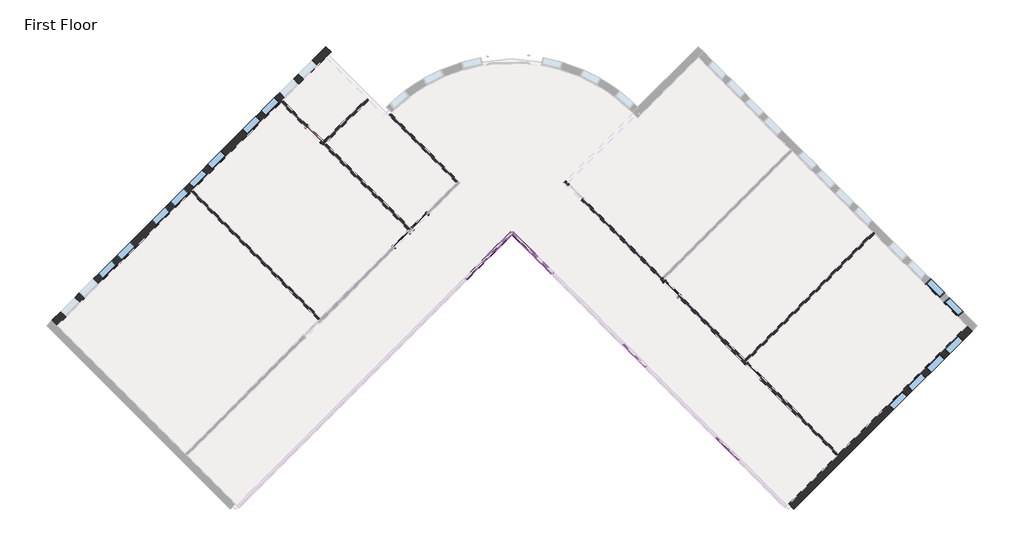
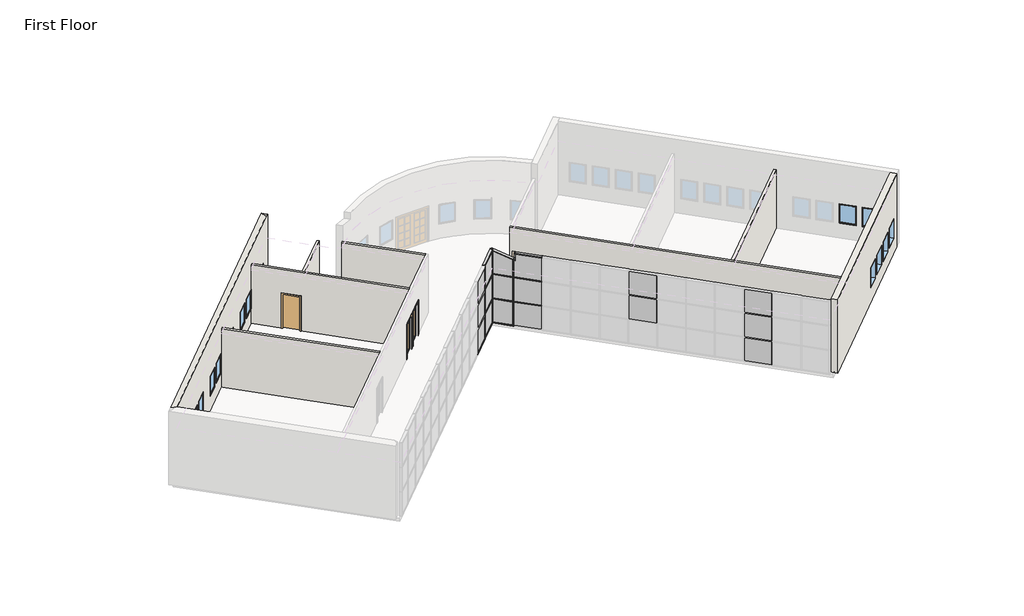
# One storey, part 3 of 4: 26 members, 17 plates, 14 windows, 8 walls, 5 doors.
"""IFC4 building model written with IfcOpenShell, lengths in millimetres."""

from ifc_helpers import new_model, si_unit, point, frame_2d, origin, origin_with_axes, place, context, project, spatial, polyline, circle_curve, trimmed, segment, composite_curve, outline, extrude, faceted_brep, transform, mapped, element, save
from components import m_single_flush_0915_x_2134mm_83e8e835, m_single_glass_1_0915_x_2134mm_fb3287b7, m_single_glass_1_0915_x_2134mm_4e5e1233, rectangular_mullion_50_x_150mm_339d4f99, rectangular_mullion_50_x_150mm_40297ad3, rectangular_mullion_50_x_150mm_ccbf48d0, rectangular_mullion_50_x_150mm_f494fff1, rectangular_mullion_50_x_150mm_97ff1a0c, rectangular_mullion_50_x_150mm_5da8f88f, rectangular_mullion_50_x_150mm_a1635f5b, rectangular_mullion_50_x_150mm_6261b450, rectangular_mullion_50_x_150mm_c13bad7a, rectangular_mullion_50_x_150mm_4d330a12, rectangular_mullion_50_x_150mm_3c20ccb2, rectangular_mullion_50_x_150mm_93975400, rectangular_mullion_50_x_150mm_0940c479, rectangular_mullion_50_x_150mm_75e70a66, rectangular_mullion_50_x_150mm_96b90bf1, rectangular_mullion_50_x_150mm_4247da93, system_panel_glazed_62d989f2, system_panel_glazed_a417ca2b, system_panel_glazed_b8bd361a, system_panel_glazed_7c4ff273, system_panel_glazed_0df73d5a, system_panel_glazed_71216330, system_panel_solid_0812dcd2, system_panel_solid_7096e89f, system_panel_solid_a570f427, system_panel_solid_49db0aee, system_panel_solid_a9fdfe61, m_fixed_0915_x_1220mm_bde29121, m_fixed_0915_x_1220mm_2a2509e7

model = new_model("IFC4")

# Units and contexts
model_context = context("Model", 3, world=origin())
ifc_project = project(units=[si_unit("LENGTHUNIT", "METRE", prefix="MILLI")], contexts=[model_context])

# Site, building, storey
site = spatial("IfcSite", under=ifc_project)
building = spatial("IfcBuilding", under=site)
storey = spatial("IfcBuildingStorey", under=building, Name="First Floor", Elevation=0.0)

# Doors
placement = place(None, origin())
m_single_flush_0915_x_2134mm_shape = m_single_flush_0915_x_2134mm_83e8e835(model_context)
element("IfcDoor", 1, ObjectType="M_Single-Flush : 0915 x 2134mm", at=placement, inside=storey, context=model_context, shape_type="MappedRepresentation", body=[
    mapped(m_single_flush_0915_x_2134mm_shape, transform((-10762.6979297, 6563.7995594, 0.0), x_axis=(0.7071067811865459, -0.7071067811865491, 0.0), y_axis=(0.7071067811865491, 0.7071067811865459, 0.0), z_axis=(0.0, 0.0, 1.0))),
])
m_single_glass_1_0915_x_2134mm_shape = m_single_glass_1_0915_x_2134mm_fb3287b7(model_context)
element("IfcDoor", 2, ObjectType="M_Single-Glass 1 : 0915 x 2134mm", at=placement, inside=storey, context=model_context, shape_type="MappedRepresentation", body=[
    mapped(m_single_glass_1_0915_x_2134mm_shape, transform((-6731.4821701, 1669.9135268, 0.0), x_axis=(0.7071067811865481, 0.7071067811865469, 0.0), y_axis=(-0.7071067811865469, 0.7071067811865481, 0.0), z_axis=(0.0, 0.0, 1.0))),
])
m_single_glass_1_0915_x_2134mm_2_shape = m_single_glass_1_0915_x_2134mm_4e5e1233(model_context)
element("IfcDoor", 3, ObjectType="M_Single-Glass 1 : 0915 x 2134mm", at=placement, inside=storey, context=model_context, shape_type="MappedRepresentation", body=[
    mapped(m_single_glass_1_0915_x_2134mm_2_shape, transform((-5868.8118971, 2532.5837999, 0.0), x_axis=(-0.7071067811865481, -0.7071067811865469, 0.0), y_axis=(0.7071067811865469, -0.7071067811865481, 0.0), z_axis=(0.0, 0.0, 1.0))),
])
element("IfcDoor", 4, ObjectType="M_Single-Glass 1 : 0915 x 2134mm", at=placement, inside=storey, context=model_context, shape_type="MappedRepresentation", body=[
    mapped(m_single_glass_1_0915_x_2134mm_2_shape, transform((5790.8485946, -591.9442895, 0.0), x_axis=(-0.7071067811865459, 0.7071067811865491, 0.0), y_axis=(-0.7071067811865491, -0.7071067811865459, 0.0), z_axis=(0.0, 0.0, 1.0))),
])
element("IfcDoor", 5, ObjectType="M_Single-Glass 1 : 0915 x 2134mm", at=placement, inside=storey, context=model_context, shape_type="MappedRepresentation", body=[
    mapped(m_single_glass_1_0915_x_2134mm_2_shape, transform((9606.3967859, -4407.4924808, 0.0), x_axis=(-0.7071067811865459, 0.7071067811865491, 0.0), y_axis=(-0.7071067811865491, -0.7071067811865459, 0.0), z_axis=(0.0, 0.0, 1.0))),
])

# Members
rectangular_mullion_50_x_150mm_shape = rectangular_mullion_50_x_150mm_339d4f99(model_context)
element("IfcMember", 6, ObjectType="Rectangular Mullion : 50 x 150mm", at=placement, inside=storey, context=model_context, shape_type="MappedRepresentation", body=[
    mapped(rectangular_mullion_50_x_150mm_shape, transform((-1636.601035, 1959.296977, 0.0), x_axis=(0.0, 0.0, -1.0), y_axis=(-0.7071067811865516, 0.7071067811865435, 0.0), z_axis=(0.7071067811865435, 0.7071067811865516, 0.0))),
])
rectangular_mullion_50_x_150mm_2_shape = rectangular_mullion_50_x_150mm_40297ad3(model_context)
element("IfcMember", 7, ObjectType="Rectangular Mullion : 50 x 150mm", at=placement, inside=storey, context=model_context, shape_type="MappedRepresentation", body=[
    mapped(rectangular_mullion_50_x_150mm_2_shape, transform((-2678.8764304, 917.0215815, 0.0), x_axis=(-0.7071067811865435, -0.7071067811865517, 0.0), y_axis=(-0.7071067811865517, 0.7071067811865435, 0.0), z_axis=(0.0, 0.0, -1.0))),
])
element("IfcMember", 8, ObjectType="Rectangular Mullion : 50 x 150mm", at=placement, inside=storey, context=model_context, shape_type="MappedRepresentation", body=[
    mapped(rectangular_mullion_50_x_150mm_2_shape, transform((-771.1023348, 1164.508955, 0.0), x_axis=(-0.7071067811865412, 0.7071067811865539, 0.0), y_axis=(0.7071067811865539, 0.7071067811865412, 0.0), z_axis=(0.0, 0.0, -1.0))),
])
rectangular_mullion_50_x_150mm_3_shape = rectangular_mullion_50_x_150mm_ccbf48d0(model_context)
element("IfcMember", 9, ObjectType="Rectangular Mullion : 50 x 150mm", at=placement, inside=storey, context=model_context, shape_type="MappedRepresentation", body=[
    mapped(rectangular_mullion_50_x_150mm_3_shape, transform((-2661.1987609, 934.6992511, 1524.0), x_axis=(0.0, 0.0, 1.0), y_axis=(-0.7071067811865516, 0.7071067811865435, 0.0), z_axis=(-0.7071067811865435, -0.7071067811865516, 0.0))),
])
element("IfcMember", 10, ObjectType="Rectangular Mullion : 50 x 150mm", at=placement, inside=storey, context=model_context, shape_type="MappedRepresentation", body=[
    mapped(rectangular_mullion_50_x_150mm_3_shape, transform((-2661.1987609, 934.6992511, 3048.0), x_axis=(0.0, 0.0, 1.0), y_axis=(-0.7071067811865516, 0.7071067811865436, 0.0), z_axis=(-0.7071067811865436, -0.7071067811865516, 0.0))),
])
rectangular_mullion_50_x_150mm_4_shape = rectangular_mullion_50_x_150mm_f494fff1(model_context)
element("IfcMember", 11, ObjectType="Rectangular Mullion : 50 x 150mm", at=placement, inside=storey, context=model_context, shape_type="MappedRepresentation", body=[
    mapped(rectangular_mullion_50_x_150mm_4_shape, transform((-753.4246653, 1146.8312854, 1524.0), x_axis=(0.0, 0.0, 1.0), y_axis=(0.7071067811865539, 0.7071067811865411, 0.0), z_axis=(-0.7071067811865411, 0.7071067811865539, 0.0))),
])
element("IfcMember", 12, ObjectType="Rectangular Mullion : 50 x 150mm", at=placement, inside=storey, context=model_context, shape_type="MappedRepresentation", body=[
    mapped(rectangular_mullion_50_x_150mm_4_shape, transform((-753.4246653, 1146.8312854, 3048.0), x_axis=(0.0, 0.0, 1.0), y_axis=(0.7071067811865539, 0.7071067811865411, 0.0), z_axis=(-0.7071067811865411, 0.7071067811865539, 0.0))),
])
rectangular_mullion_50_x_150mm_5_shape = rectangular_mullion_50_x_150mm_97ff1a0c(model_context)
element("IfcMember", 13, ObjectType="Rectangular Mullion : 50 x 150mm", at=placement, inside=storey, context=model_context, shape_type="MappedRepresentation", body=[
    mapped(rectangular_mullion_50_x_150mm_5_shape, transform((-1565.8903569, 1959.296977, 1524.0), x_axis=(0.0, 0.0, 1.0), y_axis=(0.707106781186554, 0.7071067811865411, 0.0), z_axis=(-0.7071067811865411, 0.707106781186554, 0.0))),
])
element("IfcMember", 14, ObjectType="Rectangular Mullion : 50 x 150mm", at=placement, inside=storey, context=model_context, shape_type="MappedRepresentation", body=[
    mapped(rectangular_mullion_50_x_150mm_5_shape, transform((-1565.8903569, 1959.296977, 3048.0), x_axis=(0.0, 0.0, 1.0), y_axis=(0.707106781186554, 0.7071067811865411, 0.0), z_axis=(-0.7071067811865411, 0.707106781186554, 0.0))),
])
rectangular_mullion_50_x_150mm_6_shape = rectangular_mullion_50_x_150mm_5da8f88f(model_context)
element("IfcMember", 15, ObjectType="Rectangular Mullion : 50 x 150mm", at=placement, inside=storey, context=model_context, shape_type="MappedRepresentation", body=[
    mapped(rectangular_mullion_50_x_150mm_6_shape, transform((-2696.5541, 899.343912, 0.0), x_axis=(0.0, 0.0, -1.0), y_axis=(-0.7071067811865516, 0.7071067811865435, 0.0), z_axis=(0.7071067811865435, 0.7071067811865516, 0.0))),
])
rectangular_mullion_50_x_150mm_7_shape = rectangular_mullion_50_x_150mm_a1635f5b(model_context)
element("IfcMember", 16, ObjectType="Rectangular Mullion : 50 x 150mm", at=placement, inside=storey, context=model_context, shape_type="MappedRepresentation", body=[
    mapped(rectangular_mullion_50_x_150mm_7_shape, transform((-788.7800043, 1182.1866245, 0.0), x_axis=(0.0, 0.0, -1.0), y_axis=(0.707106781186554, 0.707106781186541, 0.0), z_axis=(0.707106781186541, -0.707106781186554, 0.0))),
])
element("IfcMember", 17, ObjectType="Rectangular Mullion : 50 x 150mm", at=placement, inside=storey, context=model_context, shape_type="MappedRepresentation", body=[
    mapped(rectangular_mullion_50_x_150mm_shape, transform((-2661.1987609, 934.6992511, 4571.7250795), x_axis=(0.0, 0.0, 1.0), y_axis=(-0.7071067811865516, 0.7071067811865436, 0.0), z_axis=(-0.7071067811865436, -0.7071067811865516, 0.0))),
])
element("IfcMember", 18, ObjectType="Rectangular Mullion : 50 x 150mm", at=placement, inside=storey, context=model_context, shape_type="MappedRepresentation", body=[
    mapped(rectangular_mullion_50_x_150mm_2_shape, transform((-2678.8764304, 917.0215815, 1524.0), x_axis=(-0.7071067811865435, -0.7071067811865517, 0.0), y_axis=(-0.7071067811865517, 0.7071067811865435, 0.0), z_axis=(0.0, 0.0, -1.0))),
])
element("IfcMember", 19, ObjectType="Rectangular Mullion : 50 x 150mm", at=placement, inside=storey, context=model_context, shape_type="MappedRepresentation", body=[
    mapped(rectangular_mullion_50_x_150mm_2_shape, transform((-771.1023348, 1164.508955, 1524.0), x_axis=(-0.7071067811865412, 0.7071067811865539, 0.0), y_axis=(0.7071067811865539, 0.7071067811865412, 0.0), z_axis=(0.0, 0.0, -1.0))),
])
rectangular_mullion_50_x_150mm_8_shape = rectangular_mullion_50_x_150mm_6261b450(model_context)
element("IfcMember", 20, ObjectType="Rectangular Mullion : 50 x 150mm", at=placement, inside=storey, context=model_context, shape_type="MappedRepresentation", body=[
    mapped(rectangular_mullion_50_x_150mm_8_shape, transform((-2678.8764304, 917.0215815, 3048.0), x_axis=(-0.7071067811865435, -0.7071067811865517, 0.0), y_axis=(-0.7071067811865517, 0.7071067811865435, 0.0), z_axis=(0.0, 0.0, -1.0))),
])
rectangular_mullion_50_x_150mm_9_shape = rectangular_mullion_50_x_150mm_c13bad7a(model_context)
element("IfcMember", 21, ObjectType="Rectangular Mullion : 50 x 150mm", at=placement, inside=storey, context=model_context, shape_type="MappedRepresentation", body=[
    mapped(rectangular_mullion_50_x_150mm_9_shape, transform((-1601.2456959, 1994.6523161, 4571.7250795), x_axis=(0.7071067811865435, 0.7071067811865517, 0.0), y_axis=(-0.7071067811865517, 0.7071067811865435, 0.0), z_axis=(0.0, 0.0, 1.0))),
])
rectangular_mullion_50_x_150mm_10_shape = rectangular_mullion_50_x_150mm_4d330a12(model_context)
element("IfcMember", 22, ObjectType="Rectangular Mullion : 50 x 150mm", at=placement, inside=storey, context=model_context, shape_type="MappedRepresentation", body=[
    mapped(rectangular_mullion_50_x_150mm_10_shape, transform((-1601.2456959, 1994.6523161, 0.0), x_axis=(-0.7071067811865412, 0.7071067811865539, 0.0), y_axis=(0.7071067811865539, 0.7071067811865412, 0.0), z_axis=(0.0, 0.0, -1.0))),
])
element("IfcMember", 23, ObjectType="Rectangular Mullion : 50 x 150mm", at=placement, inside=storey, context=model_context, shape_type="MappedRepresentation", body=[
    mapped(rectangular_mullion_50_x_150mm_10_shape, transform((-1601.2456959, 1994.6523161, 1524.0), x_axis=(-0.7071067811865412, 0.7071067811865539, 0.0), y_axis=(0.7071067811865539, 0.7071067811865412, 0.0), z_axis=(0.0, 0.0, -1.0))),
])
element("IfcMember", 24, ObjectType="Rectangular Mullion : 50 x 150mm", at=placement, inside=storey, context=model_context, shape_type="MappedRepresentation", body=[
    mapped(rectangular_mullion_50_x_150mm_10_shape, transform((-1601.2456959, 1994.6523161, 1524.0), x_axis=(0.7071067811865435, 0.7071067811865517, 0.0), y_axis=(-0.7071067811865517, 0.7071067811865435, 0.0), z_axis=(0.0, 0.0, 1.0))),
])
element("IfcMember", 25, ObjectType="Rectangular Mullion : 50 x 150mm", at=placement, inside=storey, context=model_context, shape_type="MappedRepresentation", body=[
    mapped(rectangular_mullion_50_x_150mm_10_shape, transform((-1601.2456959, 1994.6523161, 3048.0), x_axis=(0.7071067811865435, 0.7071067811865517, 0.0), y_axis=(-0.7071067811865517, 0.7071067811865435, 0.0), z_axis=(0.0, 0.0, 1.0))),
])
rectangular_mullion_50_x_150mm_11_shape = rectangular_mullion_50_x_150mm_3c20ccb2(model_context)
element("IfcMember", 26, ObjectType="Rectangular Mullion : 50 x 150mm", at=placement, inside=storey, context=model_context, shape_type="MappedRepresentation", body=[
    mapped(rectangular_mullion_50_x_150mm_11_shape, transform((-703.2200838, 1096.626704, 4572.0), x_axis=(0.0, 0.0, 1.0), y_axis=(0.7071067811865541, 0.7071067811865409, 0.0), z_axis=(-0.7071067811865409, 0.7071067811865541, 0.0))),
])
rectangular_mullion_50_x_150mm_12_shape = rectangular_mullion_50_x_150mm_93975400(model_context)
element("IfcMember", 27, ObjectType="Rectangular Mullion : 50 x 150mm", at=placement, inside=storey, context=model_context, shape_type="MappedRepresentation", body=[
    mapped(rectangular_mullion_50_x_150mm_12_shape, transform((-738.5754229, 1131.982043, 4165.1754932), x_axis=(-0.7071067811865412, 0.7071067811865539, 0.0), y_axis=(0.7071067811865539, 0.7071067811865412, 0.0), z_axis=(0.0, 0.0, -1.0))),
])
rectangular_mullion_50_x_150mm_13_shape = rectangular_mullion_50_x_150mm_0940c479(model_context)
element("IfcMember", 28, ObjectType="Rectangular Mullion : 50 x 150mm", at=placement, inside=storey, context=model_context, shape_type="MappedRepresentation", body=[
    mapped(rectangular_mullion_50_x_150mm_13_shape, transform((-1601.2456959, 1994.6523161, 4571.7250795), x_axis=(0.2235488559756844, -0.2235488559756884, 0.9487106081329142), y_axis=(0.707106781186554, 0.7071067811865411, 0.0), z_axis=(-0.6708397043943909, 0.6708397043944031, 0.3161458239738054))),
])
rectangular_mullion_50_x_150mm_14_shape = rectangular_mullion_50_x_150mm_75e70a66(model_context)
element("IfcMember", 29, ObjectType="Rectangular Mullion : 50 x 150mm", at=placement, inside=storey, context=model_context, shape_type="MappedRepresentation", body=[
    mapped(rectangular_mullion_50_x_150mm_14_shape, transform((-771.1023348, 1164.508955, 4180.504412), x_axis=(0.2235488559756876, -0.2235488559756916, 0.9487106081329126), y_axis=(0.7071067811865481, 0.7071067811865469, 0.0), z_axis=(-0.6708397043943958, 0.6708397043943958, 0.3161458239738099))),
])
rectangular_mullion_50_x_150mm_15_shape = rectangular_mullion_50_x_150mm_96b90bf1(model_context)
element("IfcMember", 30, ObjectType="Rectangular Mullion : 50 x 150mm", at=placement, inside=storey, context=model_context, shape_type="MappedRepresentation", body=[
    mapped(rectangular_mullion_50_x_150mm_15_shape, transform((-771.1023348, 1164.508955, 3048.0), x_axis=(-0.7071067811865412, 0.7071067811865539, 0.0), y_axis=(0.7071067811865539, 0.7071067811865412, 0.0), z_axis=(0.0, 0.0, -1.0))),
])
rectangular_mullion_50_x_150mm_16_shape = rectangular_mullion_50_x_150mm_4247da93(model_context)
element("IfcMember", 31, ObjectType="Rectangular Mullion : 50 x 150mm", at=placement, inside=storey, context=model_context, shape_type="MappedRepresentation", body=[
    mapped(rectangular_mullion_50_x_150mm_16_shape, transform((-1601.2456959, 1994.6523161, 3048.0), x_axis=(-0.7071067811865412, 0.7071067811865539, 0.0), y_axis=(0.7071067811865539, 0.7071067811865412, 0.0), z_axis=(0.0, 0.0, -1.0))),
])

# Plates
system_panel_glazed_shape = system_panel_glazed_62d989f2(model_context)
element("IfcPlate", 32, ObjectType="System Panel : Glazed", at=placement, inside=storey, context=model_context, shape_type="MappedRepresentation", body=[
    mapped(system_panel_glazed_shape, transform((-2148.8998979, 1446.998114, 50.0), x_axis=(-0.7071067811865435, -0.7071067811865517, 0.0), y_axis=(0.7071067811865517, -0.7071067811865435, 0.0), z_axis=(0.0, 0.0, 1.0))),
])
system_panel_glazed_2_shape = system_panel_glazed_a417ca2b(model_context)
element("IfcPlate", 33, ObjectType="System Panel : Glazed", at=placement, inside=storey, context=model_context, shape_type="MappedRepresentation", body=[
    mapped(system_panel_glazed_2_shape, transform((8388.7589087, -7995.3522885, 50.0), x_axis=(-0.7071067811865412, 0.7071067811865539, 0.0), y_axis=(-0.7071067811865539, -0.7071067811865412, 0.0), z_axis=(0.0, 0.0, 1.0))),
])
element("IfcPlate", 34, ObjectType="System Panel : Glazed", at=placement, inside=storey, context=model_context, shape_type="MappedRepresentation", body=[
    mapped(system_panel_glazed_2_shape, transform((-3217.6917977, 378.2062143, 50.0), x_axis=(-0.7071067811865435, -0.7071067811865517, 0.0), y_axis=(0.7071067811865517, -0.7071067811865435, 0.0), z_axis=(0.0, 0.0, 1.0))),
])
element("IfcPlate", 35, ObjectType="System Panel : Glazed", at=placement, inside=storey, context=model_context, shape_type="MappedRepresentation", body=[
    mapped(system_panel_glazed_2_shape, transform((-232.2869675, 625.6935877, 50.0), x_axis=(-0.7071067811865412, 0.7071067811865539, 0.0), y_axis=(-0.7071067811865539, -0.7071067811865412, 0.0), z_axis=(0.0, 0.0, 1.0))),
])
system_panel_glazed_3_shape = system_panel_glazed_b8bd361a(model_context)
element("IfcPlate", 36, ObjectType="System Panel : Glazed", at=placement, inside=storey, context=model_context, shape_type="MappedRepresentation", body=[
    mapped(system_panel_glazed_3_shape, transform((-2148.8998979, 1446.998114, 1549.0), x_axis=(-0.7071067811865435, -0.7071067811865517, 0.0), y_axis=(0.7071067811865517, -0.7071067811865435, 0.0), z_axis=(0.0, 0.0, 1.0))),
])
system_panel_glazed_4_shape = system_panel_glazed_7c4ff273(model_context)
element("IfcPlate", 37, ObjectType="System Panel : Glazed", at=placement, inside=storey, context=model_context, shape_type="MappedRepresentation", body=[
    mapped(system_panel_glazed_4_shape, transform((8388.7589087, -7995.3522885, 1549.0), x_axis=(-0.7071067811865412, 0.7071067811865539, 0.0), y_axis=(-0.7071067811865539, -0.7071067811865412, 0.0), z_axis=(0.0, 0.0, 1.0))),
])
element("IfcPlate", 38, ObjectType="System Panel : Glazed", at=placement, inside=storey, context=model_context, shape_type="MappedRepresentation", body=[
    mapped(system_panel_glazed_4_shape, transform((4078.2359706, -3684.8293504, 1549.0), x_axis=(-0.7071067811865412, 0.7071067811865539, 0.0), y_axis=(-0.7071067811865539, -0.7071067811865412, 0.0), z_axis=(0.0, 0.0, 1.0))),
])
element("IfcPlate", 39, ObjectType="System Panel : Glazed", at=placement, inside=storey, context=model_context, shape_type="MappedRepresentation", body=[
    mapped(system_panel_glazed_4_shape, transform((-3217.6917977, 378.2062143, 1549.0), x_axis=(-0.7071067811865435, -0.7071067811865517, 0.0), y_axis=(0.7071067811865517, -0.7071067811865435, 0.0), z_axis=(0.0, 0.0, 1.0))),
])
element("IfcPlate", 40, ObjectType="System Panel : Glazed", at=placement, inside=storey, context=model_context, shape_type="MappedRepresentation", body=[
    mapped(system_panel_glazed_4_shape, transform((-232.2869675, 625.6935877, 1549.0), x_axis=(-0.7071067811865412, 0.7071067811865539, 0.0), y_axis=(-0.7071067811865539, -0.7071067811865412, 0.0), z_axis=(0.0, 0.0, 1.0))),
])
system_panel_glazed_5_shape = system_panel_glazed_0df73d5a(model_context)
element("IfcPlate", 41, ObjectType="System Panel : Glazed", at=placement, inside=storey, context=model_context, shape_type="MappedRepresentation", body=[
    mapped(system_panel_glazed_5_shape, transform((-1177.3351806, 1570.7418008, 50.0), x_axis=(-0.7071067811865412, 0.7071067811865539, 0.0), y_axis=(-0.7071067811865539, -0.7071067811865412, 0.0), z_axis=(0.0, 0.0, 1.0))),
])
system_panel_glazed_6_shape = system_panel_glazed_71216330(model_context)
element("IfcPlate", 42, ObjectType="System Panel : Glazed", at=placement, inside=storey, context=model_context, shape_type="MappedRepresentation", body=[
    mapped(system_panel_glazed_6_shape, transform((-1177.3351806, 1570.7418008, 1549.0), x_axis=(-0.7071067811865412, 0.7071067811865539, 0.0), y_axis=(-0.7071067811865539, -0.7071067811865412, 0.0), z_axis=(0.0, 0.0, 1.0))),
])
system_panel_solid_shape = system_panel_solid_0812dcd2(model_context)
element("IfcPlate", 43, ObjectType="System Panel : Solid", at=placement, inside=storey, context=model_context, shape_type="MappedRepresentation", body=[
    mapped(system_panel_solid_shape, transform((-2148.8998979, 1446.998114, 3073.0), x_axis=(-0.7071067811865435, -0.7071067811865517, 0.0), y_axis=(0.7071067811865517, -0.7071067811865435, 0.0), z_axis=(0.0, 0.0, 1.0))),
])
system_panel_solid_2_shape = system_panel_solid_7096e89f(model_context)
element("IfcPlate", 44, ObjectType="System Panel : Solid", at=placement, inside=storey, context=model_context, shape_type="MappedRepresentation", body=[
    mapped(system_panel_solid_2_shape, transform((-3217.6917977, 378.2062143, 3073.0), x_axis=(-0.7071067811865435, -0.7071067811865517, 0.0), y_axis=(0.7071067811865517, -0.7071067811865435, 0.0), z_axis=(0.0, 0.0, 1.0))),
])
system_panel_solid_3_shape = system_panel_solid_a570f427(model_context)
element("IfcPlate", 45, ObjectType="System Panel : Solid", at=placement, inside=storey, context=model_context, shape_type="MappedRepresentation", body=[
    mapped(system_panel_solid_3_shape, transform((8388.7589087, -7995.3522885, 3073.0), x_axis=(-0.7071067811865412, 0.7071067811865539, 0.0), y_axis=(-0.7071067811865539, -0.7071067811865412, 0.0), z_axis=(0.0, 0.0, 1.0))),
])
element("IfcPlate", 46, ObjectType="System Panel : Solid", at=placement, inside=storey, context=model_context, shape_type="MappedRepresentation", body=[
    mapped(system_panel_solid_3_shape, transform((4078.2359706, -3684.8293504, 3073.0), x_axis=(-0.7071067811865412, 0.7071067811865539, 0.0), y_axis=(-0.7071067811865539, -0.7071067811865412, 0.0), z_axis=(0.0, 0.0, 1.0))),
])
system_panel_solid_4_shape = system_panel_solid_49db0aee(model_context)
element("IfcPlate", 47, ObjectType="System Panel : Solid", at=placement, inside=storey, context=model_context, shape_type="MappedRepresentation", body=[
    mapped(system_panel_solid_4_shape, transform((-232.2869675, 625.6935877, 3073.0), x_axis=(-0.7071067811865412, 0.7071067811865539, 0.0), y_axis=(-0.7071067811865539, -0.7071067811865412, 0.0), z_axis=(0.0, 0.0, 1.0))),
])
system_panel_solid_5_shape = system_panel_solid_a9fdfe61(model_context)
element("IfcPlate", 48, ObjectType="System Panel : Solid", at=placement, inside=storey, context=model_context, shape_type="MappedRepresentation", body=[
    mapped(system_panel_solid_5_shape, transform((-1177.3351806, 1570.7418008, 3073.0), x_axis=(-0.7071067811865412, 0.7071067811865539, 0.0), y_axis=(-0.7071067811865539, -0.7071067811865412, 0.0), z_axis=(0.0, 0.0, 1.0))),
])

# Walls
element("IfcWall", 49, ObjectType="Exterior - Brick on Mtl. Stud", at=placement, inside=storey, context=model_context, shape_type="Brep", body=[
    faceted_brep([(19456.3942478, -2315.870622, 0.0), (13534.5517321, -8237.7131378, 0.0), (13436.6174429, -8335.647427, 0.0), (11206.5794317, -10565.6854381, 0.0), (11206.5794317, -10565.6854381, 4572.0), (19456.3942478, -2315.870622, 4572.0), (16455.7866219, -5316.478248, 915.0), (16455.7866219, -5316.478248, 2135.0), (15808.7839171, -5963.4809528, 2135.0), (15808.7839171, -5963.4809528, 915.0), (17317.7497881, -4454.5150817, 915.0), (17317.7497881, -4454.5150817, 2135.0), (16670.7470833, -5101.5177865, 2135.0), (16670.7470833, -5101.5177865, 915.0), (18179.7129544, -3592.5519155, 915.0), (18179.7129544, -3592.5519155, 2135.0), (17532.7102496, -4239.5546203, 2135.0), (17532.7102496, -4239.5546203, 915.0), (19041.6761207, -2730.5887492, 915.0), (19041.6761207, -2730.5887492, 2135.0), (18394.6734159, -3377.591454, 2135.0), (18394.6734159, -3377.591454, 915.0), (19703.8816212, -2563.3579955, 0.0), (19703.8816212, -2563.3579955, 4572.0), (11454.0668051, -10813.1728116, 4572.0), (11454.0668051, -10813.1728116, 0.0), (16703.2739953, -5563.9656214, 915.0), (16056.2712905, -6210.9683262, 915.0), (16056.2712905, -6210.9683262, 2135.0), (16703.2739953, -5563.9656214, 2135.0), (17565.2371615, -4702.0024552, 915.0), (16918.2344568, -5349.0051599, 915.0), (16918.2344568, -5349.0051599, 2135.0), (17565.2371615, -4702.0024552, 2135.0), (18427.2003278, -3840.0392889, 915.0), (17780.197623, -4487.0419937, 915.0), (17780.197623, -4487.0419937, 2135.0), (18427.2003278, -3840.0392889, 2135.0), (19289.1634941, -2978.0761226, 915.0), (18642.1607893, -3625.0788274, 915.0), (18642.1607893, -3625.0788274, 2135.0), (19289.1634941, -2978.0761226, 2135.0)], [[[0, 1, 2, 3, 4, 5], [6, 7, 8, 9], [10, 11, 12, 13], [14, 15, 16, 17], [18, 19, 20, 21]], [[22, 23, 24, 25], [26, 27, 28, 29], [30, 31, 32, 33], [34, 35, 36, 37], [38, 39, 40, 41]], [[3, 2, 1, 0, 22, 25]], [[4, 3, 25, 24]], [[5, 4, 24, 23]], [[0, 5, 23, 22]], [[7, 6, 26, 29]], [[8, 7, 29, 28]], [[9, 8, 28, 27]], [[6, 9, 27, 26]], [[11, 10, 30, 33]], [[12, 11, 33, 32]], [[13, 12, 32, 31]], [[10, 13, 31, 30]], [[15, 14, 34, 37]], [[16, 15, 37, 36]], [[17, 16, 36, 35]], [[14, 17, 35, 34]], [[19, 18, 38, 41]], [[20, 19, 41, 40]], [[21, 20, 40, 39]], [[18, 21, 39, 38]]]),
])
element("IfcWall", 50, ObjectType="Exterior - Brick on Mtl. Stud", at=placement, inside=storey, context=model_context, shape_type="Brep", body=[
    faceted_brep([(-22658.8856396, -2315.870622, 0.0), (-16473.6458479, 3869.3691697, 0.0), (-16375.7115587, 3967.3034589, 0.0), (-12319.9238385, 8023.0911791, 0.0), (-12221.9895493, 8121.0254683, 0.0), (-10222.2915721, 10120.7234455, 0.0), (-10105.6189532, 10237.3960644, 0.0), (-9974.8041987, 10368.2108189, 0.0), (-9974.8041987, 10368.2108189, 4571.7250795), (-10222.2915721, 10120.7234455, 4688.3581575), (-22658.8856396, -2315.870622, 4688.3581575), (-21597.1648077, -1254.1497901, 915.0), (-22244.1675125, -1901.1524949, 915.0), (-22244.1675125, -1901.1524949, 2135.0), (-21597.1648077, -1254.1497901, 2135.0), (-20735.2016414, -392.1866238, 915.0), (-21382.2043462, -1039.1893286, 915.0), (-21382.2043462, -1039.1893286, 2135.0), (-20735.2016414, -392.1866238, 2135.0), (-19011.2753089, 1331.7397087, 915.0), (-19658.2780137, 684.7370039, 915.0), (-19658.2780137, 684.7370039, 2135.0), (-19011.2753089, 1331.7397087, 2135.0), (-19873.2384752, 469.7765424, 915.0), (-20520.2411799, -177.2261623, 915.0), (-20520.2411799, -177.2261623, 2135.0), (-19873.2384752, 469.7765424, 2135.0), (-13838.0820977, 6504.9329199, 915.0), (-13838.0820977, 6504.9329199, 2135.0), (-13191.0793929, 7151.9356247, 2135.0), (-13191.0793929, 7151.9356247, 915.0), (-12976.1189315, 7366.8960861, 915.0), (-12976.1189315, 7366.8960861, 2135.0), (-12329.1162267, 8013.8987909, 2135.0), (-12329.1162267, 8013.8987909, 915.0), (-12114.1557652, 8228.8592524, 915.0), (-12114.1557652, 8228.8592524, 2135.0), (-11467.1530604, 8875.8619572, 2135.0), (-11467.1530604, 8875.8619572, 915.0), (-11252.1925989, 9090.8224187, 915.0), (-11252.1925989, 9090.8224187, 2135.0), (-10605.1898941, 9737.8251235, 2135.0), (-10605.1898941, 9737.8251235, 915.0), (-14808.2326015, 5534.7824161, 915.0), (-15455.2353063, 4887.7797113, 915.0), (-15455.2353063, 4887.7797113, 2135.0), (-14808.2326015, 5534.7824161, 2135.0), (-15670.1957678, 4672.8192498, 915.0), (-16317.1984726, 4025.816545, 915.0), (-16317.1984726, 4025.816545, 2135.0), (-15670.1957678, 4672.8192498, 2135.0), (-16532.1589341, 3810.8560836, 915.0), (-17179.1616388, 3163.8533788, 915.0), (-17179.1616388, 3163.8533788, 2135.0), (-16532.1589341, 3810.8560836, 2135.0), (-17394.1221003, 2948.8929173, 915.0), (-18041.1248051, 2301.8902125, 915.0), (-18041.1248051, 2301.8902125, 2135.0), (-17394.1221003, 2948.8929173, 2135.0), (-22906.3730131, -2068.3832486, 0.0), (-22906.3730131, -2068.3832486, 4571.7250795), (-10222.2915721, 10615.6981923, 4571.7250795), (-10222.2915721, 10615.6981923, 0.0), (-10353.1063267, 10484.8834378, 0.0), (-21844.6521811, -1006.6624167, 915.0), (-21844.6521811, -1006.6624167, 2135.0), (-22491.6548859, -1653.6651215, 2135.0), (-22491.6548859, -1653.6651215, 915.0), (-20982.6890148, -144.6992504, 915.0), (-20982.6890148, -144.6992504, 2135.0), (-21629.6917196, -791.7019552, 2135.0), (-21629.6917196, -791.7019552, 915.0), (-19258.7626823, 1579.2270821, 915.0), (-19258.7626823, 1579.2270821, 2135.0), (-19905.7653871, 932.2243773, 2135.0), (-19905.7653871, 932.2243773, 915.0), (-20120.7258486, 717.2639159, 915.0), (-20120.7258486, 717.2639159, 2135.0), (-20767.7285534, 70.2612111, 2135.0), (-20767.7285534, 70.2612111, 915.0), (-14085.5694711, 6752.4202933, 915.0), (-13438.5667664, 7399.4229981, 915.0), (-13438.5667664, 7399.4229981, 2135.0), (-14085.5694711, 6752.4202933, 2135.0), (-13223.6063049, 7614.3834596, 915.0), (-12576.6036001, 8261.3861643, 915.0), (-12576.6036001, 8261.3861643, 2135.0), (-13223.6063049, 7614.3834596, 2135.0), (-12361.6431386, 8476.3466258, 915.0), (-11714.6404338, 9123.3493306, 915.0), (-11714.6404338, 9123.3493306, 2135.0), (-12361.6431386, 8476.3466258, 2135.0), (-11499.6799723, 9338.3097921, 915.0), (-10852.6772676, 9985.3124969, 915.0), (-10852.6772676, 9985.3124969, 2135.0), (-11499.6799723, 9338.3097921, 2135.0), (-15055.7199749, 5782.2697895, 915.0), (-15055.7199749, 5782.2697895, 2135.0), (-15702.7226797, 5135.2670847, 2135.0), (-15702.7226797, 5135.2670847, 915.0), (-15917.6831412, 4920.3066232, 915.0), (-15917.6831412, 4920.3066232, 2135.0), (-16564.685846, 4273.3039184, 2135.0), (-16564.685846, 4273.3039184, 915.0), (-16779.6463075, 4058.343457, 915.0), (-16779.6463075, 4058.343457, 2135.0), (-17426.6490123, 3411.3407522, 2135.0), (-17426.6490123, 3411.3407522, 915.0), (-17641.6094737, 3196.3802907, 915.0), (-17641.6094737, 3196.3802907, 2135.0), (-18288.6121785, 2549.3775859, 2135.0), (-18288.6121785, 2549.3775859, 915.0), (-22775.5582585, -2199.1980031, 0.0), (-10091.4768176, 10484.8834378, 0.0), (-10222.2915721, 10354.0686833, 0.0)], [[[0, 1, 2, 3, 4, 5, 6, 7, 8, 9, 10], [11, 12, 13, 14], [15, 16, 17, 18], [19, 20, 21, 22], [23, 24, 25, 26], [27, 28, 29, 30], [31, 32, 33, 34], [35, 36, 37, 38], [39, 40, 41, 42], [43, 44, 45, 46], [47, 48, 49, 50], [51, 52, 53, 54], [55, 56, 57, 58]], [[59, 60, 61, 62, 63], [64, 65, 66, 67], [68, 69, 70, 71], [72, 73, 74, 75], [76, 77, 78, 79], [80, 81, 82, 83], [84, 85, 86, 87], [88, 89, 90, 91], [92, 93, 94, 95], [96, 97, 98, 99], [100, 101, 102, 103], [104, 105, 106, 107], [108, 109, 110, 111]], [[0, 10, 60, 59, 112]], [[8, 7, 113, 62, 61]], [[65, 64, 11, 14]], [[66, 65, 14, 13]], [[67, 66, 13, 12]], [[64, 67, 12, 11]], [[69, 68, 15, 18]], [[70, 69, 18, 17]], [[71, 70, 17, 16]], [[68, 71, 16, 15]], [[73, 72, 19, 22]], [[74, 73, 22, 21]], [[75, 74, 21, 20]], [[72, 75, 20, 19]], [[77, 76, 23, 26]], [[78, 77, 26, 25]], [[79, 78, 25, 24]], [[76, 79, 24, 23]], [[28, 27, 80, 83]], [[29, 28, 83, 82]], [[30, 29, 82, 81]], [[27, 30, 81, 80]], [[32, 31, 84, 87]], [[33, 32, 87, 86]], [[34, 33, 86, 85]], [[31, 34, 85, 84]], [[36, 35, 88, 91]], [[37, 36, 91, 90]], [[38, 37, 90, 89]], [[35, 38, 89, 88]], [[40, 39, 92, 95]], [[41, 40, 95, 94]], [[42, 41, 94, 93]], [[39, 42, 93, 92]], [[97, 96, 43, 46]], [[98, 97, 46, 45]], [[99, 98, 45, 44]], [[96, 99, 44, 43]], [[101, 100, 47, 50]], [[102, 101, 50, 49]], [[103, 102, 49, 48]], [[100, 103, 48, 47]], [[105, 104, 51, 54]], [[106, 105, 54, 53]], [[107, 106, 53, 52]], [[104, 107, 52, 51]], [[109, 108, 55, 58]], [[110, 109, 58, 57]], [[111, 110, 57, 56]], [[108, 111, 56, 55]], [[10, 9, 61, 60]], [[9, 8, 61]], [[7, 6, 114, 113]], [[112, 59, 63, 114]], [[63, 62, 113, 114]], [[6, 5, 4, 3, 2, 1, 0, 112, 114]]]),
])
element("IfcWall", 51, ObjectType="Interior - 138mm Partition (1-hr)", at=placement, inside=storey, context=model_context, shape_type="SweptSolid", body=[
    extrude(outline(composite_curve([segment(polyline([(-7216.038281, 7523.5314273), (-4095.9184199, 4403.4115662), (-4193.8527091, 4305.477277), (-7312.3566207, 7423.9811885)]), True, "CONTINUOUS"), segment(trimmed(circle_curve(frame_2d((-1601.2456959, 1994.6523161)), 7880.0), [point((-7312.3566207, 7423.9811885))], [point((-7216.038281, 7523.5314273))], False, "CARTESIAN"), True, "CONTINUOUS")], self_intersect=False)), origin_with_axes(), (0.0, 0.0, 1.0), 3658.0),
])
element("IfcWall", 52, ObjectType="Interior - 138mm Partition (1-hr)", at=placement, inside=storey, context=model_context, shape_type="Brep", body=[
    faceted_brep([(-6300.1470336, 2199.1829525, 0.0), (-10233.4285039, 6132.4644229, 0.0), (-10331.3627931, 6230.3987121, 0.0), (-10390.2294327, 6289.2653516, 0.0), (-10390.2294327, 6289.2653516, 2134.0), (-11037.2321375, 6936.2680564, 2134.0), (-11037.2321375, 6936.2680564, 0.0), (-12221.9895493, 8121.0254683, 0.0), (-12221.9895493, 8121.0254683, 3658.0), (-10331.3627931, 6230.3987121, 3658.0), (-10233.4285039, 6132.4644229, 3658.0), (-6300.1470336, 2199.1829525, 3658.0), (-10488.1637219, 6191.3310624, 2134.0), (-10488.1637219, 6191.3310624, 0.0), (-6398.0813228, 2101.2486633, 0.0), (-6398.0813228, 2101.2486633, 3658.0), (-12319.9238385, 8023.0911791, 3658.0), (-12319.9238385, 8023.0911791, 0.0), (-11135.1664266, 6838.3337672, 0.0), (-11135.1664266, 6838.3337672, 2134.0)], [[[0, 1, 2, 3, 4, 5, 6, 7, 8, 9, 10, 11]], [[12, 13, 14, 15, 16, 17, 18, 19]], [[18, 17, 7, 6]], [[14, 13, 3, 2, 1, 0]], [[11, 10, 9, 8, 16, 15]], [[8, 7, 17, 16]], [[0, 11, 15, 14]], [[4, 3, 13, 12]], [[5, 4, 12, 19]], [[6, 5, 19, 18]]]),
])
element("IfcWall", 53, ObjectType="Interior - 138mm Partition (1-hr)", at=placement, inside=storey, context=model_context, shape_type="SweptSolid", body=[
    extrude(outline(polyline([(-8233.7305267, 8132.1624001), (-10233.4285039, 6132.4644229), (-10331.3627931, 6230.3987121), (-8331.6648159, 8230.0966893), (-8233.7305267, 8132.1624001)])), origin_with_axes(), (0.0, 0.0, 1.0), 3658.0),
])
element("IfcWall", 54, ObjectType="Interior - 138mm Partition (1-hr)", at=placement, inside=storey, context=model_context, shape_type="SweptSolid", body=[
    extrude(outline(polyline([(-16375.7115587, 3967.3034589), (-10453.869043, -1954.5390569), (-10551.8033322, -2052.473346), (-16473.6458479, 3869.3691697), (-16375.7115587, 3967.3034589)])), origin_with_axes(), (0.0, 0.0, 1.0), 3658.0),
])
element("IfcWall", 55, ObjectType="Interior - 138mm Partition (1-hr)", at=placement, inside=storey, context=model_context, shape_type="Brep", body=[
    faceted_brep([(9331.8625781, -4035.0239838, 2134.0), (9331.8625781, -4035.0239838, 0.0), (9272.9959386, -3976.1573443, 0.0), (9175.0616494, -3878.2230551, 0.0), (6163.3170916, -866.4784973, 0.0), (6163.3170916, -866.4784973, 2134.0), (5516.3143868, -219.4757925, 2134.0), (5516.3143868, -219.4757925, 0.0), (5457.4477473, -160.609153, 0.0), (5359.5134581, -62.6748638, 0.0), (1697.2306616, 3599.6079327, 0.0), (1697.2306616, 3599.6079327, 2134.0), (1050.2279568, 4246.6106375, 2134.0), (1050.2279568, 4246.6106375, 0.0), (991.3613173, 4305.477277, 0.0), (893.4270281, 4403.4115662, 0.0), (893.4270281, 4403.4115662, 3658.0), (991.3613173, 4305.477277, 3658.0), (5359.5134581, -62.6748638, 3658.0), (5457.4477473, -160.609153, 3658.0), (9175.0616494, -3878.2230551, 3658.0), (9272.9959386, -3976.1573443, 3658.0), (13534.5517321, -8237.7131378, 3658.0), (13534.5517321, -8237.7131378, 0.0), (9978.8652829, -4682.0266886, 0.0), (9978.8652829, -4682.0266886, 2134.0), (6065.3828024, -964.4127865, 0.0), (9233.9282889, -4132.958273, 0.0), (9233.9282889, -4132.958273, 2134.0), (9880.9309937, -4779.9609778, 2134.0), (9880.9309937, -4779.9609778, 0.0), (13436.6174429, -8335.647427, 0.0), (13436.6174429, -8335.647427, 3658.0), (795.4927389, 4305.477277, 3658.0), (795.4927389, 4305.477277, 0.0), (952.2936677, 4148.6763483, 0.0), (952.2936677, 4148.6763483, 2134.0), (1599.2963724, 3501.6736435, 2134.0), (1599.2963724, 3501.6736435, 0.0), (5418.3800976, -317.4100817, 0.0), (5418.3800976, -317.4100817, 2134.0), (6065.3828024, -964.4127865, 2134.0)], [[[0, 1, 2, 3, 4, 5, 6, 7, 8, 9, 10, 11, 12, 13, 14, 15, 16, 17, 18, 19, 20, 21, 22, 23, 24, 25]], [[26, 27, 28, 29, 30, 31, 32, 33, 34, 35, 36, 37, 38, 39, 40, 41]], [[15, 14, 13, 35, 34]], [[10, 9, 8, 7, 39, 38]], [[24, 23, 31, 30]], [[4, 3, 2, 1, 27, 26]], [[22, 21, 20, 19, 18, 17, 16, 33, 32]], [[23, 22, 32, 31]], [[16, 15, 34, 33]], [[36, 35, 13, 12]], [[37, 36, 12, 11]], [[38, 37, 11, 10]], [[40, 39, 7, 6]], [[41, 40, 6, 5]], [[26, 41, 5, 4]], [[28, 27, 1, 0]], [[29, 28, 0, 25]], [[30, 29, 25, 24]]]),
])
element("IfcWall", 56, ObjectType="Interior - 138mm Partition (1-hr)", at=placement, inside=storey, context=model_context, shape_type="SweptSolid", body=[
    extrude(outline(polyline([(15194.8384543, 1945.6851715), (9272.9959386, -3976.1573443), (9175.0616494, -3878.2230551), (15096.9041651, 2043.6194607), (15194.8384543, 1945.6851715)])), origin_with_axes(), (0.0, 0.0, 1.0), 3658.0),
])

# Windows
m_fixed_0915_x_1220mm_shape = m_fixed_0915_x_1220mm_bde29121(model_context)
element("IfcWindow", 57, ObjectType="M_Fixed : 0915 x 1220mm", at=placement, inside=storey, context=model_context, shape_type="MappedRepresentation", body=[
    mapped(m_fixed_0915_x_1220mm_shape, transform((18851.1108431, -1444.7150676, 0.0), x_axis=(-0.7071067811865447, 0.7071067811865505, 0.0), y_axis=(-0.7071067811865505, -0.7071067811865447, 0.0), z_axis=(0.0, 0.0, 1.0))),
])
element("IfcWindow", 58, ObjectType="M_Fixed : 0915 x 1220mm", at=placement, inside=storey, context=model_context, shape_type="MappedRepresentation", body=[
    mapped(m_fixed_0915_x_1220mm_shape, transform((17989.1476769, -582.7519014, 0.0), x_axis=(-0.7071067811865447, 0.7071067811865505, 0.0), y_axis=(-0.7071067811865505, -0.7071067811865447, 0.0), z_axis=(0.0, 0.0, 1.0))),
])
element("IfcWindow", 59, ObjectType="M_Fixed : 0915 x 1220mm", at=placement, inside=storey, context=model_context, shape_type="MappedRepresentation", body=[
    mapped(m_fixed_0915_x_1220mm_shape, transform((-20329.6759024, 279.2112649, 0.0), x_axis=(-0.7071067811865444, -0.7071067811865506, 0.0), y_axis=(0.7071067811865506, -0.7071067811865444, 0.0), z_axis=(0.0, 0.0, 1.0))),
])
element("IfcWindow", 60, ObjectType="M_Fixed : 0915 x 1220mm", at=placement, inside=storey, context=model_context, shape_type="MappedRepresentation", body=[
    mapped(m_fixed_0915_x_1220mm_shape, transform((-19467.7127362, 1141.1744312, 0.0), x_axis=(-0.7071067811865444, -0.7071067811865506, 0.0), y_axis=(0.7071067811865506, -0.7071067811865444, 0.0), z_axis=(0.0, 0.0, 1.0))),
])
element("IfcWindow", 61, ObjectType="M_Fixed : 0915 x 1220mm", at=placement, inside=storey, context=model_context, shape_type="MappedRepresentation", body=[
    mapped(m_fixed_0915_x_1220mm_shape, transform((-17850.5595276, 2758.3276398, 0.0), x_axis=(-0.7071067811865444, -0.7071067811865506, 0.0), y_axis=(0.7071067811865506, -0.7071067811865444, 0.0), z_axis=(0.0, 0.0, 1.0))),
])
element("IfcWindow", 62, ObjectType="M_Fixed : 0915 x 1220mm", at=placement, inside=storey, context=model_context, shape_type="MappedRepresentation", body=[
    mapped(m_fixed_0915_x_1220mm_shape, transform((-16988.5963613, 3620.290806, 0.0), x_axis=(-0.7071067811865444, -0.7071067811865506, 0.0), y_axis=(0.7071067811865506, -0.7071067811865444, 0.0), z_axis=(0.0, 0.0, 1.0))),
])
element("IfcWindow", 63, ObjectType="M_Fixed : 0915 x 1220mm", at=placement, inside=storey, context=model_context, shape_type="MappedRepresentation", body=[
    mapped(m_fixed_0915_x_1220mm_shape, transform((-16126.633195, 4482.2539723, 0.0), x_axis=(-0.7071067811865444, -0.7071067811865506, 0.0), y_axis=(0.7071067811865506, -0.7071067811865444, 0.0), z_axis=(0.0, 0.0, 1.0))),
])
element("IfcWindow", 64, ObjectType="M_Fixed : 0915 x 1220mm", at=placement, inside=storey, context=model_context, shape_type="MappedRepresentation", body=[
    mapped(m_fixed_0915_x_1220mm_shape, transform((-15264.6700288, 5344.2171386, 0.0), x_axis=(-0.7071067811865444, -0.7071067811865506, 0.0), y_axis=(0.7071067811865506, -0.7071067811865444, 0.0), z_axis=(0.0, 0.0, 1.0))),
])
m_fixed_0915_x_1220mm_2_shape = m_fixed_0915_x_1220mm_2a2509e7(model_context)
element("IfcWindow", 65, ObjectType="M_Fixed : 0915 x 1220mm", at=placement, inside=storey, context=model_context, shape_type="MappedRepresentation", body=[
    mapped(m_fixed_0915_x_1220mm_2_shape, transform((18851.1108431, -3187.0261765, 0.0), x_axis=(-0.7071067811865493, -0.7071067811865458, 0.0), y_axis=(0.7071067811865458, -0.7071067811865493, 0.0), z_axis=(0.0, 0.0, 1.0))),
])
element("IfcWindow", 66, ObjectType="M_Fixed : 0915 x 1220mm", at=placement, inside=storey, context=model_context, shape_type="MappedRepresentation", body=[
    mapped(m_fixed_0915_x_1220mm_2_shape, transform((17989.1476769, -4048.9893427, 0.0), x_axis=(-0.7071067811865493, -0.7071067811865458, 0.0), y_axis=(0.7071067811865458, -0.7071067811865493, 0.0), z_axis=(0.0, 0.0, 1.0))),
])
element("IfcWindow", 67, ObjectType="M_Fixed : 0915 x 1220mm", at=placement, inside=storey, context=model_context, shape_type="MappedRepresentation", body=[
    mapped(m_fixed_0915_x_1220mm_2_shape, transform((17127.1845106, -4910.952509, 0.0), x_axis=(-0.7071067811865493, -0.7071067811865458, 0.0), y_axis=(0.7071067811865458, -0.7071067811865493, 0.0), z_axis=(0.0, 0.0, 1.0))),
])
element("IfcWindow", 68, ObjectType="M_Fixed : 0915 x 1220mm", at=placement, inside=storey, context=model_context, shape_type="MappedRepresentation", body=[
    mapped(m_fixed_0915_x_1220mm_2_shape, transform((16265.2213443, -5772.9156753, 0.0), x_axis=(-0.7071067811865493, -0.7071067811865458, 0.0), y_axis=(0.7071067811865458, -0.7071067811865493, 0.0), z_axis=(0.0, 0.0, 1.0))),
])
element("IfcWindow", 69, ObjectType="M_Fixed : 0915 x 1220mm", at=placement, inside=storey, context=model_context, shape_type="MappedRepresentation", body=[
    mapped(m_fixed_0915_x_1220mm_2_shape, transform((-12785.5536539, 7823.3335134, 0.0), x_axis=(0.7071067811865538, 0.7071067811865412, 0.0), y_axis=(-0.7071067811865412, 0.7071067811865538, 0.0), z_axis=(0.0, 0.0, 1.0))),
])
element("IfcWindow", 70, ObjectType="M_Fixed : 0915 x 1220mm", at=placement, inside=storey, context=model_context, shape_type="MappedRepresentation", body=[
    mapped(m_fixed_0915_x_1220mm_2_shape, transform((-13647.5168202, 6961.3703471, 0.0), x_axis=(0.7071067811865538, 0.7071067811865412, 0.0), y_axis=(-0.7071067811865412, 0.7071067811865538, 0.0), z_axis=(0.0, 0.0, 1.0))),
])

save(model, "model.ifc")
